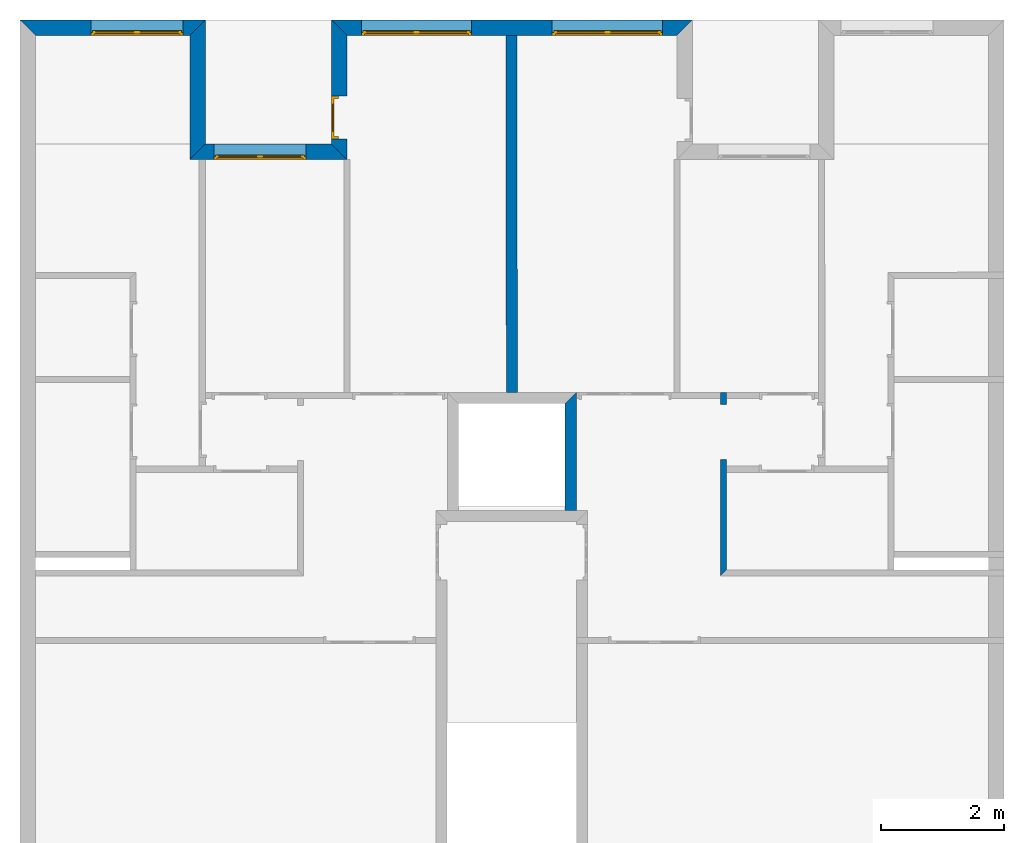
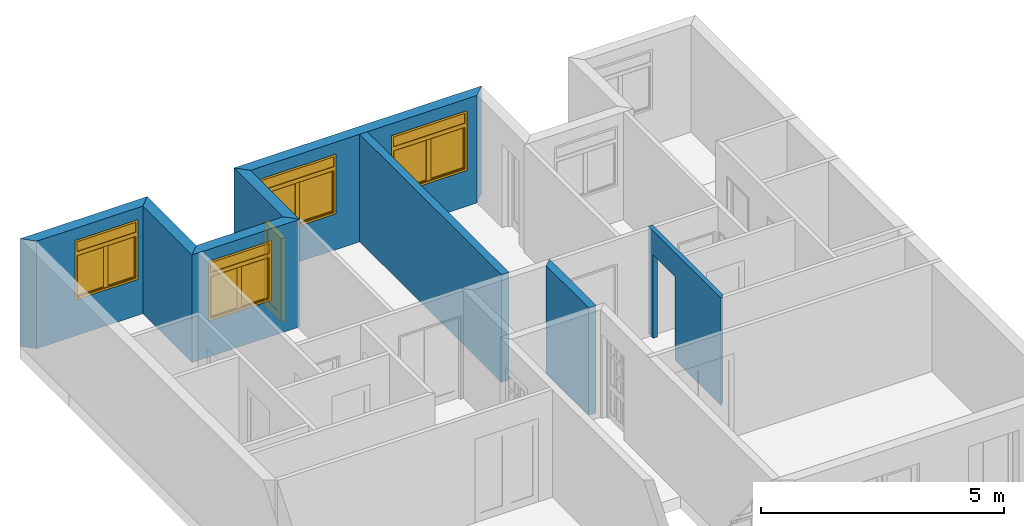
# One storey, part 8 of 11: 8 walls, 4 windows, 1 door, 6 openings.
"""IFC2X3 building model written with IfcOpenShell, lengths in metres."""

from ifc_helpers import new_model, entity, si_unit, converted_unit, direction, frame, frame_2d, origin_with_axes, place, context, project, spatial, polyline, rectangle, outline, extrude, faceted_brep, source, transform, mapped, material, layer, layer_set, layer_usage, type_object, element, fill, save


model = new_model("IFC2X3")

# Units and contexts
context_of_model = context(None, 3, precision=1e-05, world=origin_with_axes(), true_north=direction((6.123234e-17, 1.0)))
plan_context = context("Plan", 3, precision=1e-05, world=origin_with_axes(), true_north=direction((6.123234e-17, 1.0)))
model_context = context("Model", 3, precision=1e-05, world=origin_with_axes(), true_north=direction((6.123234e-17, 1.0)))
ifc_project = project(units=[si_unit("LENGTHUNIT", "METRE"), si_unit("AREAUNIT", "SQUARE_METRE"), si_unit("VOLUMEUNIT", "CUBIC_METRE"), converted_unit("PLANEANGLEUNIT", "DEGREE", entity("IfcPlaneAngleMeasure", 0.017453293), si_unit("PLANEANGLEUNIT", "RADIAN"), dimensions=[0, 0, 0, 0, 0, 0, 0]), si_unit("SOLIDANGLEUNIT", "STERADIAN"), si_unit("MASSUNIT", "GRAM"), si_unit("TIMEUNIT", "SECOND"), si_unit("THERMODYNAMICTEMPERATUREUNIT", "DEGREE_CELSIUS"), si_unit("LUMINOUSINTENSITYUNIT", "LUMEN")], contexts=[context_of_model, plan_context, model_context])

# Site, building, storey
site_placement = place(None, origin_with_axes())
site = spatial("IfcSite", under=ifc_project, at=site_placement, Name="Por defecto Sitio", CompositionType="ELEMENT")
building_placement = place(site_placement, origin_with_axes())
building = spatial("IfcBuilding", under=site, at=building_placement, Name="Por defecto Edificio", CompositionType="ELEMENT")
storey_placement = place(building_placement, frame((0.0, 0.0, 13.2), z_axis=(0.0, 0.0, 1.0), x_axis=(1.0, 0.0, 0.0)))
storey = spatial("IfcBuildingStorey", under=building, at=storey_placement, Name="Cuarta", CompositionType="ELEMENT", Elevation=13.2)

# Wall, opening, window
ifc_material = material(Name="Ladrillo común")
ifc_layer_1 = layer(ifc_material, 0.25, ventilated="UNKNOWN")
ifc_layer_set_1 = layer_set([ifc_layer_1], Name="Ladrillo común")
ifc_layer_usage_1 = layer_usage(ifc_layer_set_1, "AXIS2", "NEGATIVE", 0.0)
wall_type_1 = type_object("IfcWallType", Name="Ladrillo común", PredefinedType="NOTDEFINED")
wall_1_placement = place(storey_placement, frame((3.02, 13.449173, 0.0), z_axis=(0.0, 0.0, 1.0), x_axis=(1.0, 0.0, 0.0)))
wall_1 = element("IfcWallStandardCase", 1, at=wall_1_placement, inside=storey, type_object=wall_type_1, material=ifc_layer_usage_1, Name="Muro-015", context=context_of_model, shape_type="SweptSolid", body=[
    extrude(outline(polyline([(-0.25, -0.25), (2.3081164, -0.25), (2.0581164, 0.0), (0.0, 0.0), (-0.25, -0.25)])), origin_with_axes(), (0.0, 0.0, 1.0), 2.7),
])
opening_1_placement = place(wall_1_placement, frame((0.88807422, -0.25, 0.9), z_axis=(0.0, 0.0, 1.0), x_axis=(1.0, 0.0, 0.0)))
opening_1 = element("IfcOpeningElement", 2, at=opening_1_placement, cuts=wall_1, ObjectType="Opening", context=model_context, shape_type="SweptSolid", body=[
    extrude(rectangle(XDim=1.5, YDim=1.5, at=frame_2d((-2.220446e-16, 0.75), x_axis=(-1.0, 0.0))), frame((0.0, 0.0, 0.0), z_axis=(0.0, 1.0, 0.0), x_axis=(-1.0, 0.0, 0.0)), (0.0, 0.0, 1.0), 0.25),
])
window_style_1 = type_object("IfcWindowStyle", Name="V M Doble 12", ConstructionType="NOTDEFINED", OperationType="DOUBLE_PANEL_HORIZONTAL", ParameterTakesPrecedence=False, Sizeable=False)
shared_shape_1 = source(origin_with_axes(), model_context, "Body", "Brep", [
    faceted_brep([(0.025, 0.05, 0.05), (0.0, 0.05, 0.05), (0.0, 0.05, 1.45), (0.05, 0.05, 1.45), (0.05, 0.05, 1.2), (0.05, 0.05, 1.125), (0.025, 0.05, 1.125), (0.025, 0.025, 0.05), (0.05, 0.025, 0.05), (0.05, 0.0, 0.05), (0.0, 0.0, 0.05), (0.0, 0.0, 1.45), (0.05, 0.0, 1.45), (0.05, 0.0, 1.2), (0.05, 0.025, 1.125), (0.05, 0.0, 1.1), (0.05, 0.025, 1.1), (0.025, 0.025, 1.125)], [[[0, 1, 2, 3, 4, 5, 6]], [[7, 8, 9, 10, 1, 0]], [[2, 1, 10, 11]], [[3, 2, 11, 12]], [[4, 3, 12, 13]], [[14, 5, 4, 13, 15, 16]], [[14, 17, 6, 5]], [[6, 17, 7, 0]], [[16, 8, 7, 17, 14]], [[16, 15, 9, 8]], [[13, 12, 11, 10, 9, 15]]]),
    faceted_brep([(1.475, 0.05, 1.125), (1.45, 0.05, 1.125), (1.45, 0.05, 1.2), (1.45, 0.05, 1.45), (1.5, 0.05, 1.45), (1.5, 0.05, 0.05), (1.475, 0.05, 0.05), (1.475, 0.025, 1.125), (1.45, 0.025, 1.125), (1.45, 0.025, 1.1), (1.45, 0.0, 1.1), (1.45, 0.0, 1.2), (1.45, 0.0, 1.45), (1.5, 0.0, 1.45), (1.5, 0.0, 0.05), (1.475, 0.025, 0.05), (1.45, 0.0, 0.05), (1.45, 0.025, 0.05)], [[[0, 1, 2, 3, 4, 5, 6]], [[0, 7, 8, 1]], [[8, 9, 10, 11, 2, 1]], [[3, 2, 11, 12]], [[4, 3, 12, 13]], [[5, 4, 13, 14]], [[15, 6, 5, 14, 16, 17]], [[6, 15, 7, 0]], [[17, 9, 8, 7, 15]], [[17, 16, 10, 9]], [[14, 13, 12, 11, 10, 16]]]),
    faceted_brep([(0.05, 0.05, 1.125), (0.05, 0.05, 1.2), (1.45, 0.05, 1.2), (1.45, 0.05, 1.125), (0.75, 0.05, 1.125), (0.05, 0.025, 1.125), (0.05, 0.025, 1.1), (0.05, 0.0, 1.1), (0.05, 0.0, 1.2), (1.45, 0.0, 1.2), (1.45, 0.025, 1.125), (1.45, 0.0, 1.1), (1.45, 0.025, 1.1), (0.75, 0.025, 1.125)], [[[0, 1, 2, 3, 4]], [[5, 6, 7, 8, 1, 0]], [[2, 1, 8, 9]], [[10, 3, 2, 9, 11, 12]], [[10, 13, 4, 3]], [[4, 13, 5, 0]], [[12, 6, 5, 13, 10]], [[12, 11, 7, 6]], [[9, 8, 7, 11]]]),
    faceted_brep([(1.45, 0.025, 0.05), (1.45, 0.0, 0.05), (1.5, 0.0, 0.05), (1.5, 0.05, 0.05), (1.475, 0.05, 0.05), (1.475, 0.025, 0.05), (0.05, 0.025, 0.05), (0.05, 0.0, 0.05), (0.0, 0.0, 0.05), (0.0, 0.0, 0.0), (1.5, 0.0, 0.0), (1.5, 0.05, 0.0), (0.025, 0.05, 0.025), (0.75, 0.05, 0.025), (1.475, 0.05, 0.025), (0.0, 0.05, 0.0), (0.0, 0.05, 0.05), (0.025, 0.05, 0.05), (1.475, 0.025, 0.025), (0.75, 0.025, 0.025), (0.025, 0.025, 0.025), (0.025, 0.025, 0.05)], [[[0, 1, 2, 3, 4, 5]], [[6, 7, 1, 0]], [[8, 9, 10, 2, 1, 7]], [[11, 3, 2, 10]], [[12, 13, 14, 4, 3, 11, 15, 16, 17]], [[14, 18, 5, 4]], [[5, 18, 19, 20, 21, 6, 0]], [[21, 17, 16, 8, 7, 6]], [[16, 15, 9, 8]], [[15, 11, 10, 9]], [[12, 20, 19, 13]], [[13, 19, 18, 14]], [[21, 20, 12, 17]]]),
    faceted_brep([(1.45, 0.0, 1.45), (1.45, 0.05, 1.45), (1.5, 0.05, 1.45), (1.5, 0.0, 1.45), (0.05, 0.0, 1.45), (0.05, 0.05, 1.45), (0.0, 0.05, 1.45), (0.0, 0.05, 1.5), (1.5, 0.05, 1.5), (1.5, 0.0, 1.5), (0.0, 0.0, 1.5), (0.0, 0.0, 1.45)], [[[0, 1, 2, 3]], [[4, 5, 1, 0]], [[1, 5, 6, 7, 8, 2]], [[3, 2, 8, 9]], [[0, 3, 9, 10, 11, 4]], [[11, 6, 5, 4]], [[10, 7, 6, 11]], [[9, 8, 7, 10]]]),
    faceted_brep([(1.425, 0.025, 0.075), (1.425, 0.025, 1.075), (1.425, 0.075, 1.075), (1.425, 0.075, 0.075), (1.475, 0.025, 0.075), (1.475, 0.025, 1.075), (1.475, 0.075, 1.075), (1.475, 0.075, 0.075)], [[[0, 1, 2, 3]], [[0, 4, 5, 1]], [[1, 5, 6, 2]], [[3, 2, 6, 7]], [[4, 0, 3, 7]], [[5, 4, 7, 6]]]),
    faceted_brep([(0.75, 0.025, 0.075), (0.75, 0.025, 1.075), (0.75, 0.075, 1.075), (0.75, 0.075, 0.075), (0.8, 0.025, 0.075), (0.8, 0.025, 1.075), (0.8, 0.075, 1.075), (0.8, 0.075, 0.075)], [[[0, 1, 2, 3]], [[0, 4, 5, 1]], [[1, 5, 6, 2]], [[3, 2, 6, 7]], [[4, 0, 3, 7]], [[5, 4, 7, 6]]]),
    faceted_brep([(0.75, 0.025, 0.025), (0.75, 0.025, 0.075), (0.75, 0.075, 0.075), (0.75, 0.075, 0.025), (1.475, 0.025, 0.025), (1.475, 0.025, 0.075), (1.425, 0.025, 0.075), (0.8, 0.025, 0.075), (0.8, 0.075, 0.075), (1.425, 0.075, 0.075), (1.475, 0.075, 0.075), (1.475, 0.075, 0.025)], [[[0, 1, 2, 3]], [[0, 4, 5, 6, 7, 1]], [[1, 7, 8, 2]], [[3, 2, 8, 9, 10, 11]], [[4, 0, 3, 11]], [[5, 4, 11, 10]], [[6, 5, 10, 9]], [[7, 6, 9, 8]]]),
    faceted_brep([(1.475, 0.025, 1.125), (1.475, 0.025, 1.075), (1.475, 0.075, 1.075), (1.475, 0.075, 1.125), (0.75, 0.025, 1.125), (0.75, 0.025, 1.075), (0.8, 0.025, 1.075), (1.425, 0.025, 1.075), (1.425, 0.075, 1.075), (0.8, 0.075, 1.075), (0.75, 0.075, 1.075), (0.75, 0.075, 1.125)], [[[0, 1, 2, 3]], [[0, 4, 5, 6, 7, 1]], [[1, 7, 8, 2]], [[3, 2, 8, 9, 10, 11]], [[4, 0, 3, 11]], [[5, 4, 11, 10]], [[6, 5, 10, 9]], [[7, 6, 9, 8]]]),
    faceted_brep([(1.425, 0.04, 0.075), (0.8, 0.04, 0.075), (0.8, 0.06, 0.075), (1.425, 0.06, 0.075), (1.425, 0.04, 1.075), (0.8, 0.04, 1.075), (0.8, 0.06, 1.075), (1.425, 0.06, 1.075)], [[[0, 1, 2, 3]], [[0, 4, 5, 1]], [[1, 5, 6, 2]], [[3, 2, 6, 7]], [[4, 0, 3, 7]], [[5, 4, 7, 6]]]),
    faceted_brep([(0.7, 0.025, 0.075), (0.7, 0.025, 1.075), (0.7, 0.075, 1.075), (0.7, 0.075, 0.075), (0.75, 0.025, 0.075), (0.75, 0.025, 1.075), (0.75, 0.075, 1.075), (0.75, 0.075, 0.075)], [[[0, 1, 2, 3]], [[0, 4, 5, 1]], [[1, 5, 6, 2]], [[3, 2, 6, 7]], [[4, 0, 3, 7]], [[5, 4, 7, 6]]]),
    faceted_brep([(0.025, 0.025, 0.075), (0.025, 0.025, 1.075), (0.025, 0.075, 1.075), (0.025, 0.075, 0.075), (0.075, 0.025, 0.075), (0.075, 0.025, 1.075), (0.075, 0.075, 1.075), (0.075, 0.075, 0.075)], [[[0, 1, 2, 3]], [[0, 4, 5, 1]], [[1, 5, 6, 2]], [[3, 2, 6, 7]], [[4, 0, 3, 7]], [[5, 4, 7, 6]]]),
    faceted_brep([(0.025, 0.025, 0.025), (0.025, 0.025, 0.075), (0.025, 0.075, 0.075), (0.025, 0.075, 0.025), (0.75, 0.025, 0.025), (0.75, 0.025, 0.075), (0.7, 0.025, 0.075), (0.075, 0.025, 0.075), (0.075, 0.075, 0.075), (0.7, 0.075, 0.075), (0.75, 0.075, 0.075), (0.75, 0.075, 0.025)], [[[0, 1, 2, 3]], [[0, 4, 5, 6, 7, 1]], [[1, 7, 8, 2]], [[3, 2, 8, 9, 10, 11]], [[4, 0, 3, 11]], [[5, 4, 11, 10]], [[6, 5, 10, 9]], [[7, 6, 9, 8]]]),
    faceted_brep([(0.75, 0.025, 1.125), (0.75, 0.025, 1.075), (0.75, 0.075, 1.075), (0.75, 0.075, 1.125), (0.025, 0.025, 1.125), (0.025, 0.025, 1.075), (0.075, 0.025, 1.075), (0.7, 0.025, 1.075), (0.7, 0.075, 1.075), (0.075, 0.075, 1.075), (0.025, 0.075, 1.075), (0.025, 0.075, 1.125)], [[[0, 1, 2, 3]], [[0, 4, 5, 6, 7, 1]], [[1, 7, 8, 2]], [[3, 2, 8, 9, 10, 11]], [[4, 0, 3, 11]], [[5, 4, 11, 10]], [[6, 5, 10, 9]], [[7, 6, 9, 8]]]),
    faceted_brep([(0.7, 0.04, 0.075), (0.075, 0.04, 0.075), (0.075, 0.06, 0.075), (0.7, 0.06, 0.075), (0.7, 0.04, 1.075), (0.075, 0.04, 1.075), (0.075, 0.06, 1.075), (0.7, 0.06, 1.075)], [[[0, 1, 2, 3]], [[0, 4, 5, 1]], [[1, 5, 6, 2]], [[3, 2, 6, 7]], [[4, 0, 3, 7]], [[5, 4, 7, 6]]]),
    faceted_brep([(1.45, 0.015, 1.2), (0.05, 0.015, 1.2), (0.05, 0.035, 1.2), (1.45, 0.035, 1.2), (1.45, 0.015, 1.45), (0.05, 0.015, 1.45), (0.05, 0.035, 1.45), (1.45, 0.035, 1.45)], [[[0, 1, 2, 3]], [[0, 4, 5, 1]], [[1, 5, 6, 2]], [[3, 2, 6, 7]], [[4, 0, 3, 7]], [[5, 4, 7, 6]]]),
])
window_1_placement = place(opening_1_placement, frame((-0.75, 0.0, 0.0), z_axis=(0.0, 0.0, 1.0), x_axis=(1.0, 0.0, 0.0)))
window_1 = element("IfcWindow", 3, at=window_1_placement, inside=storey, type_object=window_style_1, Name="V01", OverallHeight=1.5, OverallWidth=1.5, context=model_context, shape_type="MappedRepresentation", body=[
    mapped(shared_shape_1, transform((0.0, 0.0, 0.0), scale=1.0)),
])
fill(opening_1, window_1)

# Wall
ifc_layer_usage_2 = layer_usage(ifc_layer_set_1, "AXIS2", "NEGATIVE", 0.0)
wall_2_placement = place(storey_placement, frame((3.02, 15.472599, 0.0), z_axis=(0.0, 0.0, 1.0), x_axis=(0.0, -1.0, 0.0)))
element("IfcWallStandardCase", 4, at=wall_2_placement, inside=storey, type_object=wall_type_1, material=ifc_layer_usage_2, Name="Muro-014", context=context_of_model, shape_type="SweptSolid", body=[
    extrude(outline(polyline([(0.25, -0.25), (2.2734265, -0.25), (2.0234265, 0.0), (0.0, 0.0), (0.25, -0.25)])), origin_with_axes(), (0.0, 0.0, 1.0), 2.7),
])

# Wall, opening, window
ifc_layer_usage_3 = layer_usage(ifc_layer_set_1, "AXIS2", "NEGATIVE", 0.0)
wall_3_placement = place(storey_placement, frame((-0.00047689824, 15.472599, 0.0), z_axis=(0.0, 0.0, 1.0), x_axis=(1.0, 0.0, 0.0)))
wall_3 = element("IfcWallStandardCase", 5, at=wall_3_placement, inside=storey, type_object=wall_type_1, material=ifc_layer_usage_3, Name="Muro-013", context=context_of_model, shape_type="SweptSolid", body=[
    extrude(outline(polyline([(0.25000771, -0.25), (2.7704769, -0.25), (3.0204769, 0.0), (0.0, 0.0), (0.25000771, -0.25)])), origin_with_axes(), (0.0, 0.0, 1.0), 2.7),
])
opening_2_placement = place(wall_3_placement, frame((1.9080742, -0.25, 0.9), z_axis=(0.0, 0.0, 1.0), x_axis=(1.0, 0.0, 0.0)))
opening_2 = element("IfcOpeningElement", 6, at=opening_2_placement, cuts=wall_3, ObjectType="Opening", context=model_context, shape_type="SweptSolid", body=[
    extrude(rectangle(XDim=1.5, YDim=1.5, at=frame_2d((0.0, 0.75), x_axis=(1.0, 0.0))), frame((0.0, 0.0, 0.0), z_axis=(0.0, 1.0, 0.0), x_axis=(-1.0, 0.0, 0.0)), (0.0, 0.0, 1.0), 0.25),
])
window_style_2 = type_object("IfcWindowStyle", Name="V M Doble 12", ConstructionType="NOTDEFINED", OperationType="DOUBLE_PANEL_HORIZONTAL", ParameterTakesPrecedence=False, Sizeable=False)
window_2_placement = place(opening_2_placement, frame((-0.75, 0.0, 0.0), z_axis=(0.0, 0.0, 1.0), x_axis=(1.0, 0.0, 0.0)))
window_2 = element("IfcWindow", 7, at=window_2_placement, inside=storey, type_object=window_style_2, Name="V02", OverallHeight=1.5, OverallWidth=1.5, context=model_context, shape_type="MappedRepresentation", body=[
    mapped(shared_shape_1, transform((0.0, 0.0, 0.0), scale=1.0)),
])
fill(opening_2, window_2)

# Wall, opening, door
ifc_layer_usage_4 = layer_usage(ifc_layer_set_1, "AXIS2", "NEGATIVE", 0.0)
wall_4_placement = place(storey_placement, frame((5.0781164, 13.449173, 0.0), z_axis=(0.0, 0.0, 1.0), x_axis=(0.0, 1.0, 0.0)))
wall_4 = element("IfcWallStandardCase", 8, at=wall_4_placement, inside=storey, type_object=wall_type_1, material=ifc_layer_usage_4, Name="Muro-013", context=context_of_model, shape_type="SweptSolid", body=[
    extrude(outline(polyline([(-0.25, -0.25), (1.7734265, -0.25), (2.0234265, 0.0), (1.7763568e-15, 0.0), (-0.25, -0.25)])), origin_with_axes(), (0.0, 0.0, 1.0), 2.7),
])
opening_3_placement = place(wall_4_placement, frame((0.43157299, -0.25, 0.0), z_axis=(0.0, 0.0, 1.0), x_axis=(1.0, 0.0, 0.0)))
opening_3 = element("IfcOpeningElement", 9, at=opening_3_placement, cuts=wall_4, ObjectType="Opening", context=model_context, shape_type="SweptSolid", body=[
    extrude(rectangle(XDim=0.7, YDim=2.1, at=frame_2d((0.0, 1.05), x_axis=(-1.0, 0.0))), frame((0.0, 0.0, 0.0), z_axis=(0.0, 1.0, 0.0), x_axis=(-1.0, 0.0, 0.0)), (0.0, 0.0, 1.0), 0.25),
])
door_style = type_object("IfcDoorStyle", Name="P1 12", ConstructionType="NOTDEFINED", OperationType="SINGLE_SWING_LEFT", ParameterTakesPrecedence=False, Sizeable=False)
shared_shape_2 = source(origin_with_axes(), model_context, "Body", "Brep", [
    faceted_brep([(0.66, 0.075, 0.0), (0.66, 0.0, 0.0), (0.66, 0.0, 2.06), (0.66, 0.075, 2.06), (0.672, 0.075, 0.0), (0.672, 0.115, 0.0), (0.7, 0.115, 0.0), (0.7, 0.0, 0.0), (0.7, 0.0, 2.06), (0.672, 0.075, 2.06), (0.7, 0.115, 2.06), (0.672, 0.115, 2.06)], [[[0, 1, 2, 3]], [[4, 5, 6, 7, 1, 0]], [[7, 8, 2, 1]], [[9, 3, 2, 8, 10, 11]], [[9, 4, 0, 3]], [[11, 5, 4, 9]], [[11, 10, 6, 5]], [[8, 7, 6, 10]]]),
    faceted_brep([(0.028, 0.075, 2.06), (0.028, 0.115, 2.06), (-1.4210855e-14, 0.115, 2.06), (-1.4210855e-14, 0.0, 2.06), (0.04, 0.0, 2.06), (0.04, 0.075, 2.06), (0.028, 0.075, 0.0), (0.028, 0.115, 0.0), (-1.4210855e-14, 0.115, 0.0), (0.0, 0.0, 0.0), (0.04, 0.0, 0.0), (0.04, 0.075, 0.0)], [[[0, 1, 2, 3, 4, 5]], [[0, 6, 7, 1]], [[7, 8, 2, 1]], [[9, 3, 2, 8]], [[10, 4, 3, 9]], [[5, 4, 10, 11]], [[5, 11, 6, 0]], [[6, 11, 10, 9, 8, 7]]]),
    faceted_brep([(0.672, 0.115, 2.072), (0.028, 0.115, 2.072), (0.028, 0.115, 2.06), (-1.4210855e-14, 0.115, 2.06), (-1.4210855e-14, 0.115, 2.1), (0.7, 0.115, 2.1), (0.7, 0.115, 2.06), (0.672, 0.115, 2.06), (0.672, 0.075, 2.072), (0.028, 0.075, 2.072), (0.028, 0.075, 2.06), (0.04, 0.075, 2.06), (0.04, 0.0, 2.06), (-1.4210855e-14, 0.0, 2.06), (-1.4210855e-14, 0.0, 2.1), (0.7, 0.0, 2.1), (0.7, 0.0, 2.06), (0.672, 0.075, 2.06), (0.66, 0.0, 2.06), (0.66, 0.075, 2.06)], [[[0, 1, 2, 3, 4, 5, 6, 7]], [[0, 8, 9, 1]], [[1, 9, 10, 2]], [[10, 11, 12, 13, 3, 2]], [[13, 14, 4, 3]], [[14, 15, 5, 4]], [[15, 16, 6, 5]], [[17, 7, 6, 16, 18, 19]], [[7, 17, 8, 0]], [[10, 9, 8, 17, 19, 11]], [[19, 18, 12, 11]], [[14, 13, 12, 18, 16, 15]]]),
    faceted_brep([(0.028, 0.115, 0.2), (0.128, 0.115, 0.2), (0.128, 0.075, 0.2), (0.028, 0.075, 0.2), (0.028, 0.115, 1.972), (0.128, 0.115, 1.972), (0.128, 0.075, 1.972), (0.028, 0.075, 1.972)], [[[0, 1, 2, 3]], [[0, 4, 5, 1]], [[1, 5, 6, 2]], [[3, 2, 6, 7]], [[4, 0, 3, 7]], [[5, 4, 7, 6]]]),
    faceted_brep([(0.672, 0.115, 0.2), (0.672, 0.115, 1.972), (0.672, 0.075, 1.972), (0.672, 0.075, 0.2), (0.572, 0.115, 0.2), (0.572, 0.115, 1.972), (0.572, 0.075, 1.972), (0.572, 0.075, 0.2)], [[[0, 1, 2, 3]], [[0, 4, 5, 1]], [[1, 5, 6, 2]], [[3, 2, 6, 7]], [[4, 0, 3, 7]], [[5, 4, 7, 6]]]),
    faceted_brep([(0.028, 0.115, 0.0), (0.672, 0.115, 0.0), (0.672, 0.075, 0.0), (0.028, 0.075, 0.0), (0.028, 0.115, 0.2), (0.128, 0.115, 0.2), (0.572, 0.115, 0.2), (0.672, 0.115, 0.2), (0.672, 0.075, 0.2), (0.572, 0.075, 0.2), (0.128, 0.075, 0.2), (0.028, 0.075, 0.2)], [[[0, 1, 2, 3]], [[0, 4, 5, 6, 7, 1]], [[1, 7, 8, 2]], [[3, 2, 8, 9, 10, 11]], [[4, 0, 3, 11]], [[5, 4, 11, 10]], [[6, 5, 10, 9]], [[7, 6, 9, 8]]]),
    faceted_brep([(0.028, 0.115, 2.072), (0.028, 0.115, 1.972), (0.028, 0.075, 1.972), (0.028, 0.075, 2.072), (0.672, 0.115, 2.072), (0.672, 0.115, 1.972), (0.572, 0.115, 1.972), (0.128, 0.115, 1.972), (0.128, 0.075, 1.972), (0.572, 0.075, 1.972), (0.672, 0.075, 1.972), (0.672, 0.075, 2.072)], [[[0, 1, 2, 3]], [[0, 4, 5, 6, 7, 1]], [[1, 7, 8, 2]], [[3, 2, 8, 9, 10, 11]], [[4, 0, 3, 11]], [[5, 4, 11, 10]], [[6, 5, 10, 9]], [[7, 6, 9, 8]]]),
    faceted_brep([(0.128, 0.101, 0.2), (0.572, 0.101, 0.2), (0.572, 0.089, 0.2), (0.128, 0.089, 0.2), (0.128, 0.101, 1.972), (0.572, 0.101, 1.972), (0.572, 0.089, 1.972), (0.128, 0.089, 1.972)], [[[0, 1, 2, 3]], [[0, 4, 5, 1]], [[1, 5, 6, 2]], [[3, 2, 6, 7]], [[4, 0, 3, 7]], [[5, 4, 7, 6]]]),
])
door_placement = place(opening_3_placement, frame((-0.35, 0.135, 0.0), z_axis=(0.0, 0.0, 1.0), x_axis=(1.0, 0.0, 0.0)))
door = element("IfcDoor", 10, at=door_placement, inside=storey, type_object=door_style, Name="P20", OverallHeight=2.1, OverallWidth=0.7, context=model_context, shape_type="MappedRepresentation", body=[
    mapped(shared_shape_2, transform((0.0, 0.0, 0.0), scale=1.0)),
])
fill(opening_3, door)

# Wall, openings, windows
ifc_layer_usage_5 = layer_usage(ifc_layer_set_1, "AXIS2", "NEGATIVE", 0.0)
wall_5_placement = place(storey_placement, frame((5.0781164, 15.472599, 0.0), z_axis=(0.0, 0.0, 1.0), x_axis=(1.0, 0.0, 0.0)))
wall_5 = element("IfcWallStandardCase", 11, at=wall_5_placement, inside=storey, type_object=wall_type_1, material=ifc_layer_usage_5, Name="Muro-014", context=context_of_model, shape_type="SweptSolid", body=[
    extrude(outline(polyline([(0.25, -0.25), (5.627937, -0.25), (5.877937, 0.0), (0.0, 0.0), (0.25, -0.25)])), origin_with_axes(), (0.0, 0.0, 1.0), 2.7),
])
opening_4_placement = place(wall_5_placement, frame((1.3828517, -0.25, 0.9), z_axis=(0.0, 0.0, 1.0), x_axis=(1.0, 0.0, 0.0)))
opening_4 = element("IfcOpeningElement", 12, at=opening_4_placement, cuts=wall_5, ObjectType="Opening", context=model_context, shape_type="SweptSolid", body=[
    extrude(rectangle(XDim=1.8, YDim=1.5, at=frame_2d((4.4408921e-16, 0.75), x_axis=(-1.0, 0.0))), frame((0.0, 0.0, 0.0), z_axis=(0.0, 1.0, 0.0), x_axis=(-1.0, 0.0, 0.0)), (0.0, 0.0, 1.0), 0.25),
])
opening_5_placement = place(wall_5_placement, frame((4.4950854, -0.25, 0.9), z_axis=(0.0, 0.0, 1.0), x_axis=(1.0, 0.0, 0.0)))
opening_5 = element("IfcOpeningElement", 13, at=opening_5_placement, cuts=wall_5, ObjectType="Opening", context=model_context, shape_type="SweptSolid", body=[
    extrude(rectangle(XDim=1.8, YDim=1.5, at=frame_2d((0.0, 0.75), x_axis=(1.0, 0.0))), frame((0.0, 0.0, 0.0), z_axis=(0.0, 1.0, 0.0), x_axis=(-1.0, 0.0, 0.0)), (0.0, 0.0, 1.0), 0.25),
])
window_style_3 = type_object("IfcWindowStyle", Name="V M Doble 12", ConstructionType="NOTDEFINED", OperationType="DOUBLE_PANEL_HORIZONTAL", ParameterTakesPrecedence=False, Sizeable=False)
shared_shape_3 = source(origin_with_axes(), model_context, "Body", "Brep", [
    faceted_brep([(0.025, 0.05, 0.05), (0.0, 0.05, 0.05), (0.0, 0.05, 1.45), (0.05, 0.05, 1.45), (0.05, 0.05, 1.2), (0.05, 0.05, 1.125), (0.025, 0.05, 1.125), (0.025, 0.025, 0.05), (0.05, 0.025, 0.05), (0.05, 0.0, 0.05), (0.0, 0.0, 0.05), (0.0, 0.0, 1.45), (0.05, 0.0, 1.45), (0.05, 0.0, 1.2), (0.05, 0.025, 1.125), (0.05, 0.0, 1.1), (0.05, 0.025, 1.1), (0.025, 0.025, 1.125)], [[[0, 1, 2, 3, 4, 5, 6]], [[7, 8, 9, 10, 1, 0]], [[2, 1, 10, 11]], [[3, 2, 11, 12]], [[4, 3, 12, 13]], [[14, 5, 4, 13, 15, 16]], [[14, 17, 6, 5]], [[6, 17, 7, 0]], [[16, 8, 7, 17, 14]], [[16, 15, 9, 8]], [[13, 12, 11, 10, 9, 15]]]),
    faceted_brep([(1.775, 0.05, 1.125), (1.75, 0.05, 1.125), (1.75, 0.05, 1.2), (1.75, 0.05, 1.45), (1.8, 0.05, 1.45), (1.8, 0.05, 0.05), (1.775, 0.05, 0.05), (1.775, 0.025, 1.125), (1.75, 0.025, 1.125), (1.75, 0.025, 1.1), (1.75, 0.0, 1.1), (1.75, 0.0, 1.2), (1.75, 0.0, 1.45), (1.8, 0.0, 1.45), (1.8, 0.0, 0.05), (1.775, 0.025, 0.05), (1.75, 0.0, 0.05), (1.75, 0.025, 0.05)], [[[0, 1, 2, 3, 4, 5, 6]], [[0, 7, 8, 1]], [[8, 9, 10, 11, 2, 1]], [[3, 2, 11, 12]], [[4, 3, 12, 13]], [[5, 4, 13, 14]], [[15, 6, 5, 14, 16, 17]], [[6, 15, 7, 0]], [[17, 9, 8, 7, 15]], [[17, 16, 10, 9]], [[14, 13, 12, 11, 10, 16]]]),
    faceted_brep([(0.05, 0.05, 1.125), (0.05, 0.05, 1.2), (1.75, 0.05, 1.2), (1.75, 0.05, 1.125), (0.9, 0.05, 1.125), (0.05, 0.025, 1.125), (0.05, 0.025, 1.1), (0.05, 0.0, 1.1), (0.05, 0.0, 1.2), (1.75, 0.0, 1.2), (1.75, 0.025, 1.125), (1.75, 0.0, 1.1), (1.75, 0.025, 1.1), (0.9, 0.025, 1.125)], [[[0, 1, 2, 3, 4]], [[5, 6, 7, 8, 1, 0]], [[2, 1, 8, 9]], [[10, 3, 2, 9, 11, 12]], [[10, 13, 4, 3]], [[4, 13, 5, 0]], [[12, 6, 5, 13, 10]], [[12, 11, 7, 6]], [[9, 8, 7, 11]]]),
    faceted_brep([(1.75, 0.025, 0.05), (1.75, 0.0, 0.05), (1.8, 0.0, 0.05), (1.8, 0.05, 0.05), (1.775, 0.05, 0.05), (1.775, 0.025, 0.05), (0.05, 0.025, 0.05), (0.05, 0.0, 0.05), (0.0, 0.0, 0.05), (0.0, 0.0, 0.0), (1.8, 0.0, 0.0), (1.8, 0.05, 0.0), (0.025, 0.05, 0.025), (0.9, 0.05, 0.025), (1.775, 0.05, 0.025), (0.0, 0.05, 0.0), (0.0, 0.05, 0.05), (0.025, 0.05, 0.05), (1.775, 0.025, 0.025), (0.9, 0.025, 0.025), (0.025, 0.025, 0.025), (0.025, 0.025, 0.05)], [[[0, 1, 2, 3, 4, 5]], [[6, 7, 1, 0]], [[8, 9, 10, 2, 1, 7]], [[11, 3, 2, 10]], [[12, 13, 14, 4, 3, 11, 15, 16, 17]], [[14, 18, 5, 4]], [[5, 18, 19, 20, 21, 6, 0]], [[21, 17, 16, 8, 7, 6]], [[16, 15, 9, 8]], [[15, 11, 10, 9]], [[12, 20, 19, 13]], [[13, 19, 18, 14]], [[21, 20, 12, 17]]]),
    faceted_brep([(1.75, 0.0, 1.45), (1.75, 0.05, 1.45), (1.8, 0.05, 1.45), (1.8, 0.0, 1.45), (0.05, 0.0, 1.45), (0.05, 0.05, 1.45), (0.0, 0.05, 1.45), (0.0, 0.05, 1.5), (1.8, 0.05, 1.5), (1.8, 0.0, 1.5), (0.0, 0.0, 1.5), (0.0, 0.0, 1.45)], [[[0, 1, 2, 3]], [[4, 5, 1, 0]], [[1, 5, 6, 7, 8, 2]], [[3, 2, 8, 9]], [[0, 3, 9, 10, 11, 4]], [[11, 6, 5, 4]], [[10, 7, 6, 11]], [[9, 8, 7, 10]]]),
    faceted_brep([(1.725, 0.025, 0.075), (1.725, 0.025, 1.075), (1.725, 0.075, 1.075), (1.725, 0.075, 0.075), (1.775, 0.025, 0.075), (1.775, 0.025, 1.075), (1.775, 0.075, 1.075), (1.775, 0.075, 0.075)], [[[0, 1, 2, 3]], [[0, 4, 5, 1]], [[1, 5, 6, 2]], [[3, 2, 6, 7]], [[4, 0, 3, 7]], [[5, 4, 7, 6]]]),
    faceted_brep([(0.9, 0.025, 0.075), (0.9, 0.025, 1.075), (0.9, 0.075, 1.075), (0.9, 0.075, 0.075), (0.95, 0.025, 0.075), (0.95, 0.025, 1.075), (0.95, 0.075, 1.075), (0.95, 0.075, 0.075)], [[[0, 1, 2, 3]], [[0, 4, 5, 1]], [[1, 5, 6, 2]], [[3, 2, 6, 7]], [[4, 0, 3, 7]], [[5, 4, 7, 6]]]),
    faceted_brep([(0.9, 0.025, 0.025), (0.9, 0.025, 0.075), (0.9, 0.075, 0.075), (0.9, 0.075, 0.025), (1.775, 0.025, 0.025), (1.775, 0.025, 0.075), (1.725, 0.025, 0.075), (0.95, 0.025, 0.075), (0.95, 0.075, 0.075), (1.725, 0.075, 0.075), (1.775, 0.075, 0.075), (1.775, 0.075, 0.025)], [[[0, 1, 2, 3]], [[0, 4, 5, 6, 7, 1]], [[1, 7, 8, 2]], [[3, 2, 8, 9, 10, 11]], [[4, 0, 3, 11]], [[5, 4, 11, 10]], [[6, 5, 10, 9]], [[7, 6, 9, 8]]]),
    faceted_brep([(1.775, 0.025, 1.125), (1.775, 0.025, 1.075), (1.775, 0.075, 1.075), (1.775, 0.075, 1.125), (0.9, 0.025, 1.125), (0.9, 0.025, 1.075), (0.95, 0.025, 1.075), (1.725, 0.025, 1.075), (1.725, 0.075, 1.075), (0.95, 0.075, 1.075), (0.9, 0.075, 1.075), (0.9, 0.075, 1.125)], [[[0, 1, 2, 3]], [[0, 4, 5, 6, 7, 1]], [[1, 7, 8, 2]], [[3, 2, 8, 9, 10, 11]], [[4, 0, 3, 11]], [[5, 4, 11, 10]], [[6, 5, 10, 9]], [[7, 6, 9, 8]]]),
    faceted_brep([(1.725, 0.04, 0.075), (0.95, 0.04, 0.075), (0.95, 0.06, 0.075), (1.725, 0.06, 0.075), (1.725, 0.04, 1.075), (0.95, 0.04, 1.075), (0.95, 0.06, 1.075), (1.725, 0.06, 1.075)], [[[0, 1, 2, 3]], [[0, 4, 5, 1]], [[1, 5, 6, 2]], [[3, 2, 6, 7]], [[4, 0, 3, 7]], [[5, 4, 7, 6]]]),
    faceted_brep([(0.85, 0.025, 0.075), (0.85, 0.025, 1.075), (0.85, 0.075, 1.075), (0.85, 0.075, 0.075), (0.9, 0.025, 0.075), (0.9, 0.025, 1.075), (0.9, 0.075, 1.075), (0.9, 0.075, 0.075)], [[[0, 1, 2, 3]], [[0, 4, 5, 1]], [[1, 5, 6, 2]], [[3, 2, 6, 7]], [[4, 0, 3, 7]], [[5, 4, 7, 6]]]),
    faceted_brep([(0.025, 0.025, 0.075), (0.025, 0.025, 1.075), (0.025, 0.075, 1.075), (0.025, 0.075, 0.075), (0.075, 0.025, 0.075), (0.075, 0.025, 1.075), (0.075, 0.075, 1.075), (0.075, 0.075, 0.075)], [[[0, 1, 2, 3]], [[0, 4, 5, 1]], [[1, 5, 6, 2]], [[3, 2, 6, 7]], [[4, 0, 3, 7]], [[5, 4, 7, 6]]]),
    faceted_brep([(0.025, 0.025, 0.025), (0.025, 0.025, 0.075), (0.025, 0.075, 0.075), (0.025, 0.075, 0.025), (0.9, 0.025, 0.025), (0.9, 0.025, 0.075), (0.85, 0.025, 0.075), (0.075, 0.025, 0.075), (0.075, 0.075, 0.075), (0.85, 0.075, 0.075), (0.9, 0.075, 0.075), (0.9, 0.075, 0.025)], [[[0, 1, 2, 3]], [[0, 4, 5, 6, 7, 1]], [[1, 7, 8, 2]], [[3, 2, 8, 9, 10, 11]], [[4, 0, 3, 11]], [[5, 4, 11, 10]], [[6, 5, 10, 9]], [[7, 6, 9, 8]]]),
    faceted_brep([(0.9, 0.025, 1.125), (0.9, 0.025, 1.075), (0.9, 0.075, 1.075), (0.9, 0.075, 1.125), (0.025, 0.025, 1.125), (0.025, 0.025, 1.075), (0.075, 0.025, 1.075), (0.85, 0.025, 1.075), (0.85, 0.075, 1.075), (0.075, 0.075, 1.075), (0.025, 0.075, 1.075), (0.025, 0.075, 1.125)], [[[0, 1, 2, 3]], [[0, 4, 5, 6, 7, 1]], [[1, 7, 8, 2]], [[3, 2, 8, 9, 10, 11]], [[4, 0, 3, 11]], [[5, 4, 11, 10]], [[6, 5, 10, 9]], [[7, 6, 9, 8]]]),
    faceted_brep([(0.85, 0.04, 0.075), (0.075, 0.04, 0.075), (0.075, 0.06, 0.075), (0.85, 0.06, 0.075), (0.85, 0.04, 1.075), (0.075, 0.04, 1.075), (0.075, 0.06, 1.075), (0.85, 0.06, 1.075)], [[[0, 1, 2, 3]], [[0, 4, 5, 1]], [[1, 5, 6, 2]], [[3, 2, 6, 7]], [[4, 0, 3, 7]], [[5, 4, 7, 6]]]),
    faceted_brep([(1.75, 0.015, 1.2), (0.05, 0.015, 1.2), (0.05, 0.035, 1.2), (1.75, 0.035, 1.2), (1.75, 0.015, 1.45), (0.05, 0.015, 1.45), (0.05, 0.035, 1.45), (1.75, 0.035, 1.45)], [[[0, 1, 2, 3]], [[0, 4, 5, 1]], [[1, 5, 6, 2]], [[3, 2, 6, 7]], [[4, 0, 3, 7]], [[5, 4, 7, 6]]]),
])
window_3_placement = place(opening_4_placement, frame((-0.9, 0.0, 0.0), z_axis=(0.0, 0.0, 1.0), x_axis=(1.0, 0.0, 0.0)))
window_3 = element("IfcWindow", 14, at=window_3_placement, inside=storey, type_object=window_style_3, Name="V03", OverallHeight=1.5, OverallWidth=1.8, context=model_context, shape_type="MappedRepresentation", body=[
    mapped(shared_shape_3, transform((0.0, 0.0, 0.0), scale=1.0)),
])
fill(opening_4, window_3)
window_style_4 = type_object("IfcWindowStyle", Name="V M Doble 12", ConstructionType="NOTDEFINED", OperationType="DOUBLE_PANEL_HORIZONTAL", ParameterTakesPrecedence=False, Sizeable=False)
window_4_placement = place(opening_5_placement, frame((-0.9, 0.0, 0.0), z_axis=(0.0, 0.0, 1.0), x_axis=(1.0, 0.0, 0.0)))
window_4 = element("IfcWindow", 15, at=window_4_placement, inside=storey, type_object=window_style_4, Name="V04", OverallHeight=1.5, OverallWidth=1.8, context=model_context, shape_type="MappedRepresentation", body=[
    mapped(shared_shape_3, transform((0.0, 0.0, 0.0), scale=1.0)),
])
fill(opening_5, window_4)

# Walls
ifc_layer_2 = layer(ifc_material, 0.18, ventilated="UNKNOWN")
ifc_layer_set_2 = layer_set([ifc_layer_2], Name="Ladrillo común")
ifc_layer_usage_6 = layer_usage(ifc_layer_set_2, "AXIS2", "NEGATIVE", 0.09)
wall_type_2 = type_object("IfcWallType", Name="Ladrillo común", PredefinedType="NOTDEFINED")
wall_6_placement = place(storey_placement, frame((8.014856, 9.4007615, 0.0), z_axis=(0.0, 0.0, 1.0), x_axis=(-0.00079976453, 0.99999968, 0.0)))
element("IfcWallStandardCase", 16, at=wall_6_placement, inside=storey, type_object=wall_type_2, material=ifc_layer_usage_6, Name="Muro-018", context=context_of_model, shape_type="SweptSolid", body=[
    extrude(outline(polyline([(-7.1978831e-05, -0.09), (5.8217675, -0.09), (5.8219114, 0.09), (7.1978831e-05, 0.09), (-7.1978831e-05, -0.09)])), origin_with_axes(), (0.0, 0.0, 1.0), 2.7),
])
ifc_layer_usage_7 = layer_usage(ifc_layer_set_2, "AXIS2", "NEGATIVE", 0.0)
wall_7_placement = place(storey_placement, frame((9.065, 9.4007615, 0.0), z_axis=(0.0, 0.0, 1.0), x_axis=(0.0, -1.0, 0.0)))
element("IfcWallStandardCase", 17, at=wall_7_placement, inside=storey, type_object=wall_type_2, material=ifc_layer_usage_7, Name="Muro-012", context=context_of_model, shape_type="SweptSolid", body=[
    extrude(outline(polyline([(0.18, -0.18), (1.9231052, -0.18), (1.9231052, 0.0), (0.0, 0.0), (0.18, -0.18)])), origin_with_axes(), (0.0, 0.0, 1.0), 2.7),
])

# Wall, opening
ifc_layer_3 = layer(ifc_material, 0.1, ventilated="UNKNOWN")
ifc_layer_set_3 = layer_set([ifc_layer_3], Name="Ladrillo común")
ifc_layer_usage_8 = layer_usage(ifc_layer_set_3, "AXIS2", "POSITIVE", 0.0)
wall_type_3 = type_object("IfcWallType", Name="Ladrillo común", PredefinedType="NOTDEFINED")
wall_8_placement = place(storey_placement, frame((11.515557, 6.51159, 0.0), z_axis=(0.0, 0.0, 1.0), x_axis=(-9.2969701e-05, 1.0, 0.0)))
wall_8 = element("IfcWallStandardCase", 18, at=wall_8_placement, inside=storey, type_object=wall_type_3, material=ifc_layer_usage_8, Name="Muro-023", context=context_of_model, shape_type="SweptSolid", body=[
    extrude(outline(polyline([(0.0, 0.0), (2.8895339, -1.7763568e-15), (2.8895339, 0.1), (-0.099998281, 0.1), (0.0, 0.0)])), origin_with_axes(), (0.0, 0.0, 1.0), 2.7),
])
opening_6_placement = place(wall_8_placement, frame((2.2463397, 0.0, 0.0), z_axis=(0.0, 0.0, 1.0), x_axis=(1.0, 0.0, 0.0)))
element("IfcOpeningElement", 19, at=opening_6_placement, inside=storey, cuts=wall_8, ObjectType="Opening", context=model_context, shape_type="SweptSolid", body=[
    extrude(rectangle(XDim=0.9, YDim=2.1, at=frame_2d((-8.8817842e-16, 1.05), x_axis=(-1.0, 0.0))), frame((0.0, 0.0, 0.0), z_axis=(0.0, 1.0, 0.0), x_axis=(-1.0, 0.0, 0.0)), (0.0, 0.0, 1.0), 0.1),
])

save(model, "model.ifc")
